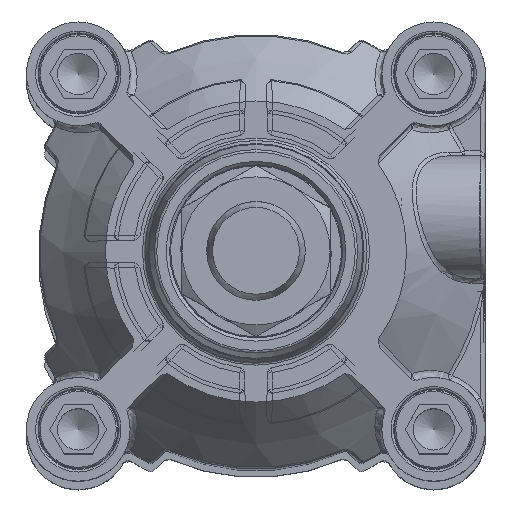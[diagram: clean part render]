
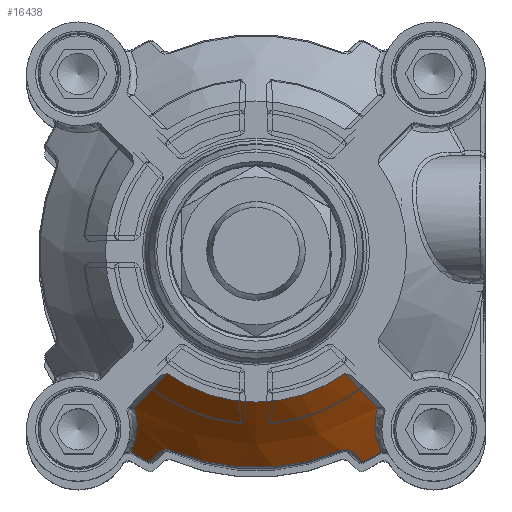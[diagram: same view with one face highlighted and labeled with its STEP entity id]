
A CAD part, top view. The second image highlights one B-rep face of the part: STEP entity #16438.
In plain terms, the highlighted conical face has half-angle 41.186 degrees and reference radius 39.25 mm.
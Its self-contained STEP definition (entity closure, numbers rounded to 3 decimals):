
#313=B_SPLINE_CURVE_WITH_KNOTS('',3,(#24278,#24279,#24280,#24281),
 .UNSPECIFIED.,.F.,.F.,(4,4),(0.,1.),.UNSPECIFIED.);
#314=B_SPLINE_CURVE_WITH_KNOTS('',3,(#24284,#24285,#24286,#24287,#24288,
#24289,#24290,#24291,#24292,#24293,#24294,#24295,#24296,#24297),
 .UNSPECIFIED.,.F.,.F.,(4,1,1,1,1,1,1,1,1,1,1,4),(0.,0.125,0.25,0.375,0.438,
0.469,0.5,0.531,0.563,0.625,0.75,1.),.UNSPECIFIED.);
#315=B_SPLINE_CURVE_WITH_KNOTS('',3,(#24301,#24302,#24303,#24304),
 .UNSPECIFIED.,.F.,.F.,(4,4),(0.,1.),.UNSPECIFIED.);
#316=B_SPLINE_CURVE_WITH_KNOTS('',3,(#24306,#24307,#24308,#24309,#24310,
#24311,#24312,#24313,#24314),.UNSPECIFIED.,.F.,.F.,(4,1,1,1,1,1,4),(0.,
0.25,0.375,0.5,0.625,0.75,1.),.UNSPECIFIED.);
#317=B_SPLINE_CURVE_WITH_KNOTS('',3,(#24318,#24319,#24320,#24321,#24322,
#24323,#24324,#24325,#24326,#24327),.UNSPECIFIED.,.F.,.F.,(4,1,1,1,1,1,
1,4),(0.,0.125,0.25,0.375,0.5,0.625,0.75,1.),.UNSPECIFIED.);
#318=B_SPLINE_CURVE_WITH_KNOTS('',3,(#24329,#24330,#24331,#24332),
 .UNSPECIFIED.,.F.,.F.,(4,4),(0.,1.),.UNSPECIFIED.);
#319=B_SPLINE_CURVE_WITH_KNOTS('',3,(#24336,#24337,#24338,#24339,#24340,
#24341,#24342,#24343,#24344,#24345,#24346,#24347,#24348,#24349,#24350,#24351,
#24352),.UNSPECIFIED.,.F.,.F.,(4,1,1,1,1,1,1,1,1,1,1,1,1,1,4),(0.,0.125,
0.188,0.25,0.313,0.375,0.438,0.5,0.563,0.625,0.688,0.75,0.813,0.875,
1.),.UNSPECIFIED.);
#320=B_SPLINE_CURVE_WITH_KNOTS('',3,(#24354,#24355,#24356,#24357),
 .UNSPECIFIED.,.F.,.F.,(4,4),(0.,1.),.UNSPECIFIED.);
#2062=CONICAL_SURFACE('',#17404,39.25,0.719);
#3035=ORIENTED_EDGE('',*,*,#6472,.F.);
#3036=ORIENTED_EDGE('',*,*,#6473,.F.);
#3037=ORIENTED_EDGE('',*,*,#6474,.F.);
#3038=ORIENTED_EDGE('',*,*,#6475,.F.);
#3039=ORIENTED_EDGE('',*,*,#6476,.F.);
#3040=ORIENTED_EDGE('',*,*,#6477,.F.);
#3041=ORIENTED_EDGE('',*,*,#6478,.F.);
#3042=ORIENTED_EDGE('',*,*,#6479,.F.);
#3043=ORIENTED_EDGE('',*,*,#6480,.F.);
#3044=ORIENTED_EDGE('',*,*,#6481,.F.);
#3045=ORIENTED_EDGE('',*,*,#6482,.F.);
#3046=ORIENTED_EDGE('',*,*,#6483,.F.);
#6472=EDGE_CURVE('',#8198,#8199,#313,.T.);
#6473=EDGE_CURVE('',#8200,#8198,#314,.F.);
#6474=EDGE_CURVE('',#8201,#8200,#9282,.T.);
#6475=EDGE_CURVE('',#8202,#8201,#315,.F.);
#6476=EDGE_CURVE('',#8203,#8202,#316,.F.);
#6477=EDGE_CURVE('',#8204,#8203,#9283,.T.);
#6478=EDGE_CURVE('',#8205,#8204,#317,.F.);
#6479=EDGE_CURVE('',#8206,#8205,#318,.F.);
#6480=EDGE_CURVE('',#8207,#8206,#9284,.T.);
#6481=EDGE_CURVE('',#8208,#8207,#319,.F.);
#6482=EDGE_CURVE('',#8209,#8208,#320,.T.);
#6483=EDGE_CURVE('',#8199,#8209,#9285,.T.);
#8198=VERTEX_POINT('',#24282);
#8199=VERTEX_POINT('',#24283);
#8200=VERTEX_POINT('',#24298);
#8201=VERTEX_POINT('',#24300);
#8202=VERTEX_POINT('',#24305);
#8203=VERTEX_POINT('',#24315);
#8204=VERTEX_POINT('',#24317);
#8205=VERTEX_POINT('',#24328);
#8206=VERTEX_POINT('',#24333);
#8207=VERTEX_POINT('',#24335);
#8208=VERTEX_POINT('',#24353);
#8209=VERTEX_POINT('',#24358);
#9282=CIRCLE('',#17405,47.753);
#9283=CIRCLE('',#17406,43.753);
#9284=CIRCLE('',#17407,47.753);
#9285=CIRCLE('',#17408,30.5);
#9940=EDGE_LOOP('',(#3035,#3036,#3037,#3038,#3039,#3040,#3041,#3042,#3043,
#3044,#3045,#3046));
#10826=FACE_BOUND('',#9940,.T.);
#16438=ADVANCED_FACE('',(#10826),#2062,.T.);
#17404=AXIS2_PLACEMENT_3D('',#24277,#19240,#19241);
#17405=AXIS2_PLACEMENT_3D('',#24299,#19242,#19243);
#17406=AXIS2_PLACEMENT_3D('',#24316,#19244,#19245);
#17407=AXIS2_PLACEMENT_3D('',#24334,#19246,#19247);
#17408=AXIS2_PLACEMENT_3D('',#24359,#19248,#19249);
#19240=DIRECTION('',(0.,0.,-1.));
#19241=DIRECTION('',(0.707,-0.707,0.));
#19242=DIRECTION('',(0.,0.,-1.));
#19243=DIRECTION('',(-0.496,-0.868,0.));
#19244=DIRECTION('',(0.,0.,-1.));
#19245=DIRECTION('',(0.,-1.,0.));
#19246=DIRECTION('',(0.,0.,-1.));
#19247=DIRECTION('',(0.496,-0.868,0.));
#19248=DIRECTION('',(0.,0.,1.));
#19249=DIRECTION('',(1.,0.,0.));
#24277=CARTESIAN_POINT('',(0.,0.,38.));
#24278=CARTESIAN_POINT('',(-24.68,-31.621,37.019));
#24279=CARTESIAN_POINT('',(-22.4,-29.328,40.68));
#24280=CARTESIAN_POINT('',(-20.12,-27.035,44.341));
#24281=CARTESIAN_POINT('',(-17.84,-24.742,48.003));
#24282=CARTESIAN_POINT('',(-24.679,-31.619,37.017));
#24283=CARTESIAN_POINT('',(-17.839,-24.739,48.));
#24284=CARTESIAN_POINT('',(-24.679,-31.619,37.017));
#24285=CARTESIAN_POINT('',(-24.55,-31.999,36.766));
#24286=CARTESIAN_POINT('',(-24.332,-32.765,36.219));
#24287=CARTESIAN_POINT('',(-24.128,-33.94,35.269));
#24288=CARTESIAN_POINT('',(-24.064,-34.942,34.371));
#24289=CARTESIAN_POINT('',(-24.077,-35.664,33.679));
#24290=CARTESIAN_POINT('',(-24.1,-36.072,33.277));
#24291=CARTESIAN_POINT('',(-24.129,-36.405,32.942));
#24292=CARTESIAN_POINT('',(-24.156,-36.646,32.695));
#24293=CARTESIAN_POINT('',(-24.202,-36.999,32.33));
#24294=CARTESIAN_POINT('',(-24.301,-37.6,31.693));
#24295=CARTESIAN_POINT('',(-24.583,-38.805,30.359));
#24296=CARTESIAN_POINT('',(-24.974,-39.823,29.136));
#24297=CARTESIAN_POINT('',(-25.31,-40.494,28.283));
#24298=CARTESIAN_POINT('',(-25.31,-40.494,28.283));
#24299=CARTESIAN_POINT('',(0.,0.,28.283));
#24300=CARTESIAN_POINT('',(-21.697,-42.539,28.283));
#24301=CARTESIAN_POINT('',(-21.697,-42.539,28.283));
#24302=CARTESIAN_POINT('',(-20.938,-41.85,29.378));
#24303=CARTESIAN_POINT('',(-20.2,-41.181,30.438));
#24304=CARTESIAN_POINT('',(-19.482,-40.531,31.462));
#24305=CARTESIAN_POINT('',(-19.482,-40.531,31.462));
#24306=CARTESIAN_POINT('',(-19.482,-40.531,31.462));
#24307=CARTESIAN_POINT('',(-19.36,-40.42,31.637));
#24308=CARTESIAN_POINT('',(-19.175,-40.286,31.867));
#24309=CARTESIAN_POINT('',(-18.836,-40.134,32.189));
#24310=CARTESIAN_POINT('',(-18.59,-40.06,32.385));
#24311=CARTESIAN_POINT('',(-18.272,-40.011,32.588));
#24312=CARTESIAN_POINT('',(-17.88,-40.012,32.772));
#24313=CARTESIAN_POINT('',(-17.521,-40.092,32.854));
#24314=CARTESIAN_POINT('',(-17.312,-40.182,32.854));
#24315=CARTESIAN_POINT('',(-17.312,-40.182,32.854));
#24316=CARTESIAN_POINT('',(0.,0.,32.854));
#24317=CARTESIAN_POINT('',(17.312,-40.182,32.854));
#24318=CARTESIAN_POINT('',(17.312,-40.182,32.854));
#24319=CARTESIAN_POINT('',(17.414,-40.138,32.854));
#24320=CARTESIAN_POINT('',(17.621,-40.068,32.833));
#24321=CARTESIAN_POINT('',(17.978,-40.016,32.722));
#24322=CARTESIAN_POINT('',(18.273,-40.014,32.584));
#24323=CARTESIAN_POINT('',(18.595,-40.061,32.382));
#24324=CARTESIAN_POINT('',(18.824,-40.128,32.201));
#24325=CARTESIAN_POINT('',(19.139,-40.263,31.908));
#24326=CARTESIAN_POINT('',(19.35,-40.411,31.652));
#24327=CARTESIAN_POINT('',(19.482,-40.531,31.462));
#24328=CARTESIAN_POINT('',(19.482,-40.531,31.462));
#24329=CARTESIAN_POINT('',(19.482,-40.531,31.462));
#24330=CARTESIAN_POINT('',(20.2,-41.181,30.438));
#24331=CARTESIAN_POINT('',(20.938,-41.85,29.378));
#24332=CARTESIAN_POINT('',(21.697,-42.539,28.283));
#24333=CARTESIAN_POINT('',(21.697,-42.539,28.283));
#24334=CARTESIAN_POINT('',(0.,0.,28.283));
#24335=CARTESIAN_POINT('',(25.31,-40.494,28.283));
#24336=CARTESIAN_POINT('',(25.31,-40.494,28.283));
#24337=CARTESIAN_POINT('',(25.148,-40.17,28.695));
#24338=CARTESIAN_POINT('',(24.931,-39.683,29.298));
#24339=CARTESIAN_POINT('',(24.69,-39.021,30.084));
#24340=CARTESIAN_POINT('',(24.538,-38.541,30.641));
#24341=CARTESIAN_POINT('',(24.392,-37.992,31.26));
#24342=CARTESIAN_POINT('',(24.278,-37.463,31.838));
#24343=CARTESIAN_POINT('',(24.189,-36.923,32.411));
#24344=CARTESIAN_POINT('',(24.127,-36.409,32.941));
#24345=CARTESIAN_POINT('',(24.083,-35.804,33.543));
#24346=CARTESIAN_POINT('',(24.072,-35.231,34.092));
#24347=CARTESIAN_POINT('',(24.09,-34.648,34.629));
#24348=CARTESIAN_POINT('',(24.133,-34.101,35.113));
#24349=CARTESIAN_POINT('',(24.218,-33.442,35.669));
#24350=CARTESIAN_POINT('',(24.375,-32.623,36.318));
#24351=CARTESIAN_POINT('',(24.544,-32.016,36.754));
#24352=CARTESIAN_POINT('',(24.679,-31.619,37.017));
#24353=CARTESIAN_POINT('',(24.679,-31.619,37.017));
#24354=CARTESIAN_POINT('',(17.84,-24.742,48.003));
#24355=CARTESIAN_POINT('',(20.12,-27.035,44.341));
#24356=CARTESIAN_POINT('',(22.4,-29.328,40.68));
#24357=CARTESIAN_POINT('',(24.68,-31.621,37.019));
#24358=CARTESIAN_POINT('',(17.839,-24.739,48.));
#24359=CARTESIAN_POINT('',(0.,0.,48.));
